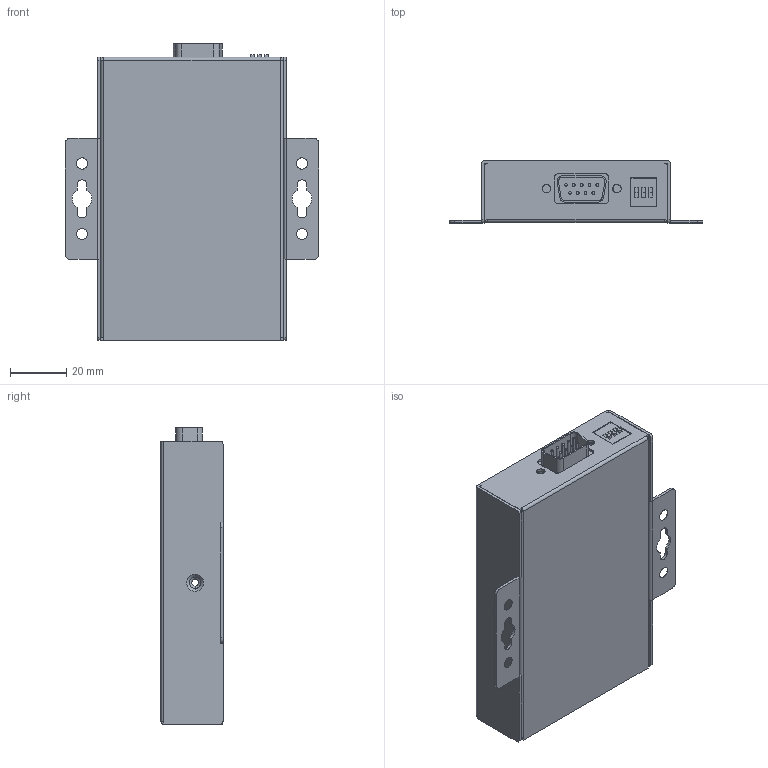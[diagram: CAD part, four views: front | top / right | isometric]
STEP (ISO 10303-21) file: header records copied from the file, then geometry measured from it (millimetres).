
FILE_DESCRIPTION((''),'2;1');
FILE_NAME('DE-311','2011-04-14T',('Vincent_Huang'),(''),'PRO/ENGINEER BY PARAMETRIC TECHNOLOGY CORPORATION, 2004320','PRO/ENGINEER BY PARAMETRIC TECHNOLOGY CORPORATION, 2004320','');
FILE_SCHEMA(('CONFIG_CONTROL_DESIGN'));
Length unit declared in the file: millimetre
Products named in the file (1): DE-311
Bounding box: 90 x 22 x 105.2 mm (x, y, z)
Volume: 41522.4 mm3; surface area: 66328.2 mm2
Topology: 13 solids, 13 shells, 680 faces, 1756 edges, 1139 vertices
Faces by surface type: plane 408, cylinder 248, cone 12, sphere 8, torus 4
Entity records: 20869 total; most frequent: DIRECTION 3707, CARTESIAN_POINT 3567, ORIENTED_EDGE 3496, EDGE_CURVE 1748, AXIS2_PLACEMENT_3D 1279, VECTOR 1149, LINE 1149, VERTEX_POINT 1139
